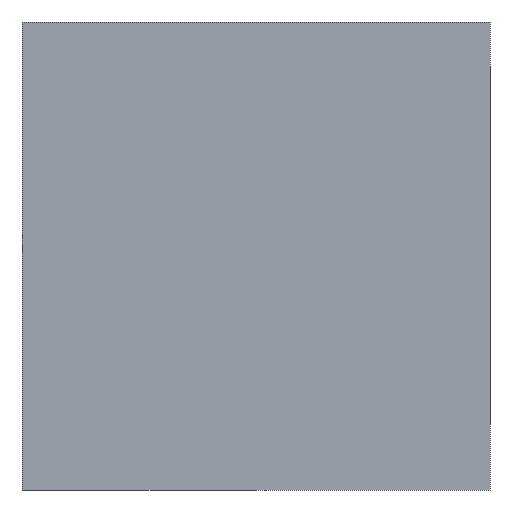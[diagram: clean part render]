
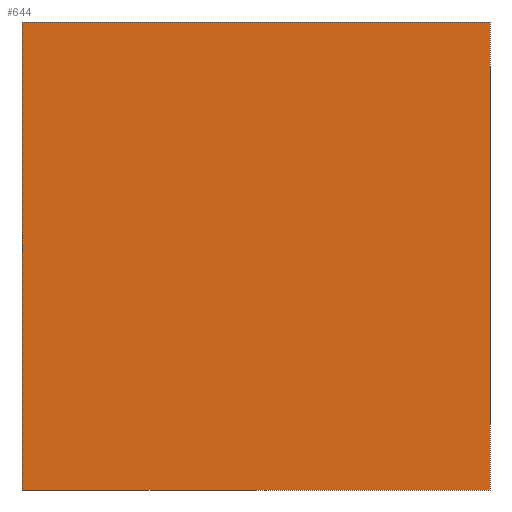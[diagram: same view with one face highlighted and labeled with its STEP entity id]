
A CAD part, left-side view. The second image highlights one B-rep face of the part: STEP entity #644.
In plain terms, the highlighted planar face has unit normal (-1, 0, 0).
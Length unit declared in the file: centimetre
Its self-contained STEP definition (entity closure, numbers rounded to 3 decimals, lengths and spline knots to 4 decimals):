
#2 = ORIENTED_EDGE ( 'NONE', *, *, #417, .T. ) ;
#3 = EDGE_CURVE ( 'NONE', #28, #416, #534, .T. ) ;
#4 = VECTOR ( 'NONE', #63, 100. ) ;
#16 = LINE ( 'NONE', #222, #34 ) ;
#18 = LINE ( 'NONE', #428, #4 ) ;
#28 = VERTEX_POINT ( 'NONE', #242 ) ;
#34 = VECTOR ( 'NONE', #478, 100. ) ;
#63 = DIRECTION ( 'NONE',  ( 0., 0., -1. ) ) ;
#104 = ORIENTED_EDGE ( 'NONE', *, *, #538, .T. ) ;
#163 = CARTESIAN_POINT ( 'NONE',  ( 0., 0., 0. ) ) ;
#173 = EDGE_CURVE ( 'NONE', #416, #523, #494, .T. ) ;
#179 = DIRECTION ( 'NONE',  ( 1., 0., 0. ) ) ;
#188 = DIRECTION ( 'NONE',  ( 0., 0., -1. ) ) ;
#216 = AXIS2_PLACEMENT_3D ( 'NONE', #226, #179, #434 ) ;
#222 = CARTESIAN_POINT ( 'NONE',  ( 0., 1000., 0. ) ) ;
#226 = CARTESIAN_POINT ( 'NONE',  ( 0., 1000., 1000. ) ) ;
#242 = CARTESIAN_POINT ( 'NONE',  ( 0., 1000., 1000. ) ) ;
#250 = ORIENTED_EDGE ( 'NONE', *, *, #173, .F. ) ;
#256 = VECTOR ( 'NONE', #389, 100. ) ;
#261 = EDGE_LOOP ( 'NONE', ( #104, #250, #421, #2 ) ) ;
#274 = CARTESIAN_POINT ( 'NONE',  ( 0., 1000., 0. ) ) ;
#278 = CARTESIAN_POINT ( 'NONE',  ( 0., 1000., 1000. ) ) ;
#319 = CARTESIAN_POINT ( 'NONE',  ( 0., 0., 1000. ) ) ;
#336 = PLANE ( 'NONE',  #216 ) ;
#389 = DIRECTION ( 'NONE',  ( 0., -1., 0. ) ) ;
#416 = VERTEX_POINT ( 'NONE', #319 ) ;
#417 = EDGE_CURVE ( 'NONE', #28, #488, #18, .T. ) ;
#421 = ORIENTED_EDGE ( 'NONE', *, *, #3, .F. ) ;
#428 = CARTESIAN_POINT ( 'NONE',  ( 0., 1000., 1000. ) ) ;
#434 = DIRECTION ( 'NONE',  ( 0., 0., -1. ) ) ;
#478 = DIRECTION ( 'NONE',  ( 0., -1., 0. ) ) ;
#487 = FACE_OUTER_BOUND ( 'NONE', #261, .T. ) ;
#488 = VERTEX_POINT ( 'NONE', #274 ) ;
#494 = LINE ( 'NONE', #500, #592 ) ;
#500 = CARTESIAN_POINT ( 'NONE',  ( 0., 0., 1000. ) ) ;
#523 = VERTEX_POINT ( 'NONE', #163 ) ;
#534 = LINE ( 'NONE', #278, #256 ) ;
#538 = EDGE_CURVE ( 'NONE', #488, #523, #16, .T. ) ;
#592 = VECTOR ( 'NONE', #188, 100. ) ;
#644 = ADVANCED_FACE ( 'NONE', ( #487 ), #336, .F. ) ;
